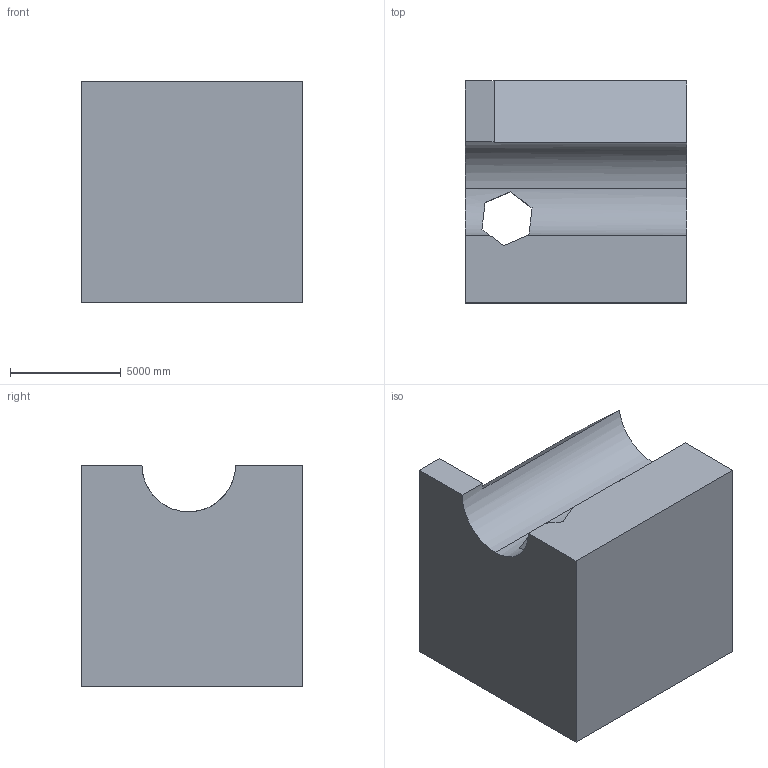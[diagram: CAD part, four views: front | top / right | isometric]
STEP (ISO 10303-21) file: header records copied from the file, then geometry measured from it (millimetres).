
FILE_DESCRIPTION (( 'STEP AP203' ), '1' );
FILE_NAME ('1202.STEP', '2022-08-18T13:09:56', ( 'user' ), ( '' ), 'SwSTEP 2.0', 'SolidWorks 2021', '' );
FILE_SCHEMA (( 'CONFIG_CONTROL_DESIGN' ));
Length unit declared in the file: centimetre
Products named in the file (1): 1202
Bounding box: 10000 x 10000 x 10000 mm (x, y, z)
Volume: 857977914472.8 mm3; surface area: 646039817.1 mm2
Topology: 1 solids, 1 shells, 17 faces, 48 edges, 32 vertices
Faces by surface type: plane 15, cylinder 2
Entity records: 628 total; most frequent: CARTESIAN_POINT 116, ORIENTED_EDGE 96, DIRECTION 83, EDGE_CURVE 48, LINE 37, VECTOR 37, VERTEX_POINT 32, AXIS2_PLACEMENT_3D 23
